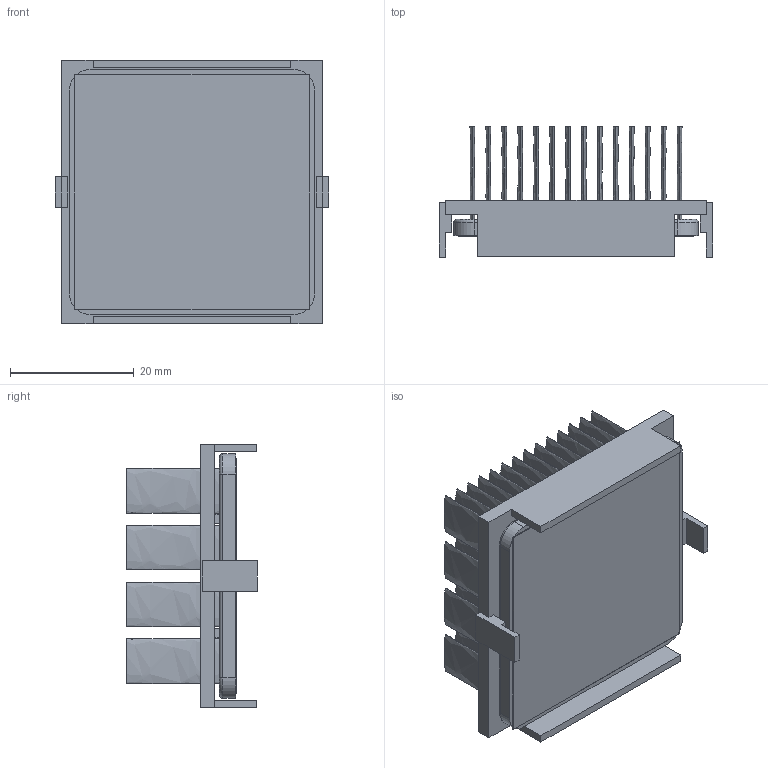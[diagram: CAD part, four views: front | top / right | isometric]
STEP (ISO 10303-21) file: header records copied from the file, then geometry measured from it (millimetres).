
FILE_DESCRIPTION (( 'STEP AP214' ), '1' );
FILE_NAME ('INM40001-18W-2.6Y.STEP', '2023-02-21T17:39:07', ( '' ), ( '' ), 'SwSTEP 2.0', 'SolidWorks 2020', '' );
FILE_SCHEMA (( 'AUTOMOTIVE_DESIGN' ));
Length unit declared in the file: inch
Products named in the file (1): INM40001-18W-2.6Y
Bounding box: 44.2 x 21.1 x 42.7 mm (x, y, z)
Volume: 10082 mm3; surface area: 21851.3 mm2
Topology: 3 solids, 3 shells, 250 faces, 556 edges, 368 vertices
Faces by surface type: plane 126, bspline 112, cylinder 8, torus 4
Entity records: 10428 total; most frequent: CARTESIAN_POINT 2631, ORIENTED_EDGE 1112, DIRECTION 630, EDGE_CURVE 556, VERTEX_POINT 368, VECTOR 312, LINE 312, EDGE_LOOP 308
